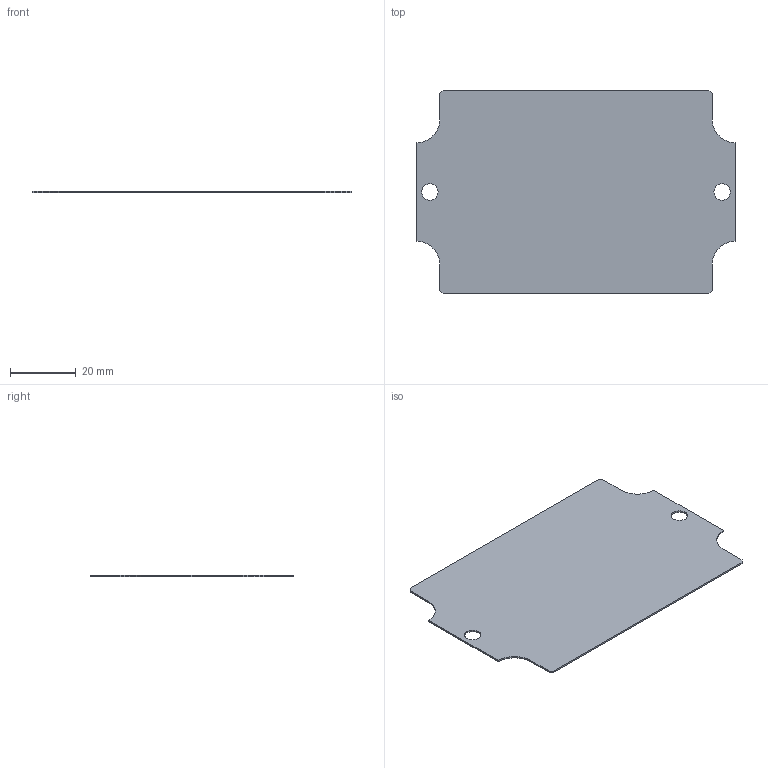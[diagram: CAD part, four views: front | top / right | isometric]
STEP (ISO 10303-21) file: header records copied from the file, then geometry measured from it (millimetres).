
FILE_DESCRIPTION((''),'2;1');
FILE_NAME('c:\temp\082PL.stp','2006-07-18T13:51:01',('kbond'),(''),'Autodesk Inventor 11','Autodesk Inventor 11','');
FILE_SCHEMA(('AUTOMOTIVE_DESIGN { 1 0 10303 214 1 1 1 1 }'));
Length unit declared in the file: millimetre
Products named in the file (1): 082PL
Bounding box: 97 x 62 x 0.5 mm (x, y, z)
Volume: 2783.4 mm3; surface area: 11301.1 mm2
Topology: 1 solids, 1 shells, 20 faces, 56 edges, 38 vertices
Faces by surface type: plane 14, cylinder 4, bspline 2
Entity records: 677 total; most frequent: CARTESIAN_POINT 143, ORIENTED_EDGE 104, DIRECTION 102, EDGE_CURVE 52, VECTOR 40, LINE 40, VERTEX_POINT 36, AXIS2_PLACEMENT_3D 31
